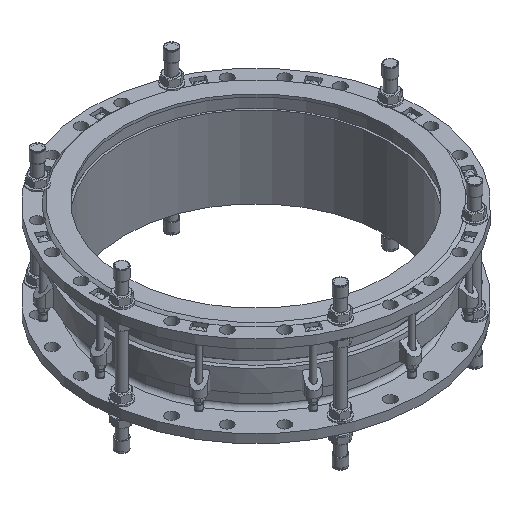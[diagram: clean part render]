
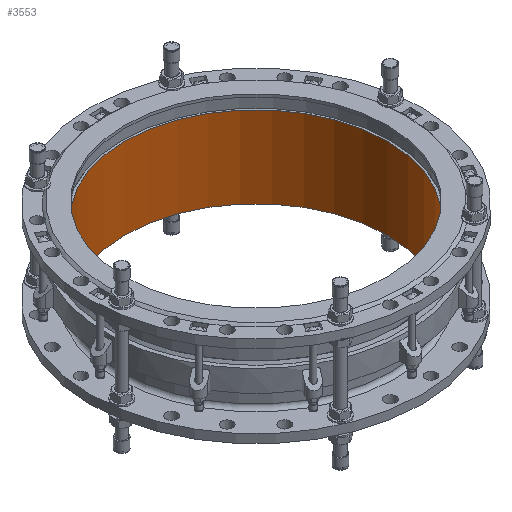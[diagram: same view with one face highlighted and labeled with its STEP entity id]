
A CAD part, isometric view. The second image highlights one B-rep face of the part: STEP entity #3553.
In plain terms, the highlighted cylindrical face has radius 400 mm (diameter 800 mm), a full revolution.
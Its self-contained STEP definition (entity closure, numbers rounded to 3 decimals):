
#3553=ADVANCED_FACE('',(#4354,#4356),#4358,.F.);
#4354=FACE_OUTER_BOUND('',#4355,.T.);
#4355=EDGE_LOOP('',(#7754));
#4356=FACE_OUTER_BOUND('',#4357,.T.);
#4357=EDGE_LOOP('',(#7755));
#4358=CYLINDRICAL_SURFACE('',#4359,400.);
#4359=AXIS2_PLACEMENT_3D('',#4360,#4361,#4362);
#4360=CARTESIAN_POINT('',(0.,0.,0.));
#4361=DIRECTION('',(0.,0.,1.));
#4362=DIRECTION('',(-1.,0.,0.));
#7754=ORIENTED_EDGE('',*,*,#10129,.F.);
#7755=ORIENTED_EDGE('',*,*,#10130,.F.);
#10129=EDGE_CURVE('',#11232,#11232,#11233,.T.);
#10130=EDGE_CURVE('',#11234,#11234,#11235,.T.);
#11232=VERTEX_POINT('',#13131);
#11233=CIRCLE('',#13132,400.);
#11234=VERTEX_POINT('',#13136);
#11235=CIRCLE('',#13137,400.);
#13131=CARTESIAN_POINT('',(-400.,0.,248.));
#13132=AXIS2_PLACEMENT_3D('',#13133,#13134,#13135);
#13133=CARTESIAN_POINT('',(0.,0.,248.));
#13134=DIRECTION('',(0.,0.,-1.));
#13135=DIRECTION('',(-1.,0.,0.));
#13136=CARTESIAN_POINT('',(-400.,0.,0.));
#13137=AXIS2_PLACEMENT_3D('',#13138,#13139,#13140);
#13138=CARTESIAN_POINT('',(0.,0.,0.));
#13139=DIRECTION('',(0.,0.,1.));
#13140=DIRECTION('',(-1.,0.,0.));
